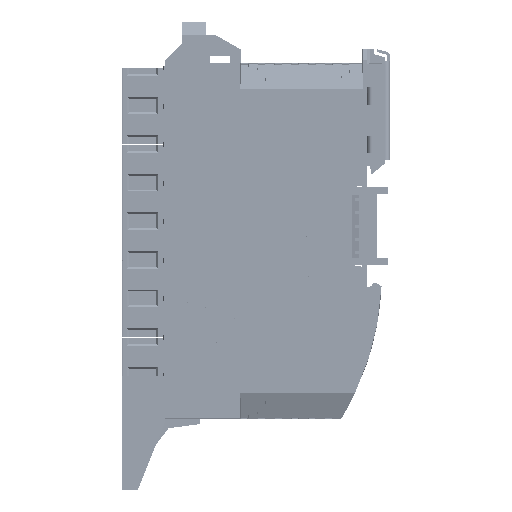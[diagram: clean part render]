
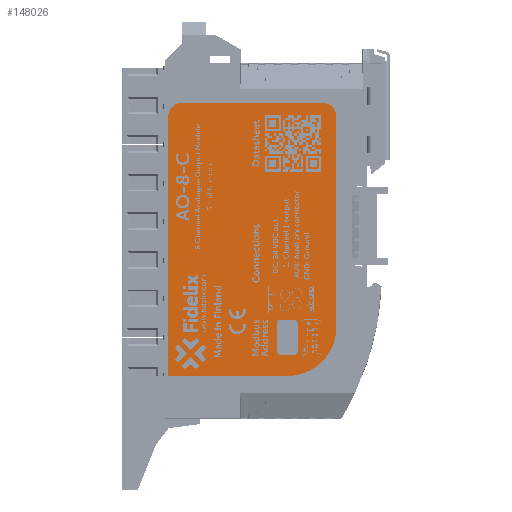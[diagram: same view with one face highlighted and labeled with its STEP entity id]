
A CAD part, left-side view. The second image highlights one B-rep face of the part: STEP entity #148026.
In plain terms, the highlighted planar face has unit normal (-1, 0, 0).
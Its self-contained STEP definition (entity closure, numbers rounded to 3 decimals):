
#865=CIRCLE('',#155704,1.);
#867=CIRCLE('',#155708,1.);
#869=CIRCLE('',#155712,1.);
#871=CIRCLE('',#155716,1.);
#873=CIRCLE('',#155721,4.);
#875=CIRCLE('',#155725,4.);
#877=CIRCLE('',#155729,14.);
#3838=FACE_BOUND('',#21263,.T.);
#6705=PLANE('',#155730);
#13348=FACE_OUTER_BOUND('',#21262,.T.);
#21262=EDGE_LOOP('',(#111419,#111420,#111421,#111422,#111423,#111424,#111425));
#21263=EDGE_LOOP('',(#111426,#111427,#111428,#111429,#111430,#111431,#111432,
#111433));
#32674=LINE('',#266078,#49132);
#32678=LINE('',#266090,#49136);
#32682=LINE('',#266102,#49140);
#32686=LINE('',#266114,#49144);
#32690=LINE('',#266126,#49148);
#32693=LINE('',#266132,#49151);
#32697=LINE('',#266144,#49155);
#32701=LINE('',#266156,#49159);
#49132=VECTOR('',#174347,1000.);
#49136=VECTOR('',#174359,1000.);
#49140=VECTOR('',#174371,1000.);
#49144=VECTOR('',#174383,1000.);
#49148=VECTOR('',#174395,1000.);
#49151=VECTOR('',#174400,1000.);
#49155=VECTOR('',#174412,1000.);
#49159=VECTOR('',#174424,1000.);
#66205=VERTEX_POINT('',#266075);
#66206=VERTEX_POINT('',#266077);
#66208=VERTEX_POINT('',#266083);
#66210=VERTEX_POINT('',#266089);
#66212=VERTEX_POINT('',#266095);
#66214=VERTEX_POINT('',#266101);
#66216=VERTEX_POINT('',#266107);
#66218=VERTEX_POINT('',#266113);
#66221=VERTEX_POINT('',#266123);
#66222=VERTEX_POINT('',#266125);
#66224=VERTEX_POINT('',#266131);
#66226=VERTEX_POINT('',#266137);
#66228=VERTEX_POINT('',#266143);
#66230=VERTEX_POINT('',#266149);
#66232=VERTEX_POINT('',#266155);
#82628=EDGE_CURVE('',#66206,#66205,#32674,.T.);
#82631=EDGE_CURVE('',#66208,#66206,#865,.T.);
#82634=EDGE_CURVE('',#66210,#66208,#32678,.T.);
#82637=EDGE_CURVE('',#66212,#66210,#867,.T.);
#82640=EDGE_CURVE('',#66214,#66212,#32682,.T.);
#82643=EDGE_CURVE('',#66216,#66214,#869,.T.);
#82646=EDGE_CURVE('',#66218,#66216,#32686,.T.);
#82649=EDGE_CURVE('',#66205,#66218,#871,.T.);
#82652=EDGE_CURVE('',#66222,#66221,#32690,.T.);
#82655=EDGE_CURVE('',#66224,#66222,#32693,.T.);
#82658=EDGE_CURVE('',#66226,#66224,#873,.T.);
#82661=EDGE_CURVE('',#66228,#66226,#32697,.T.);
#82664=EDGE_CURVE('',#66230,#66228,#875,.T.);
#82667=EDGE_CURVE('',#66232,#66230,#32701,.T.);
#82670=EDGE_CURVE('',#66221,#66232,#877,.T.);
#111419=ORIENTED_EDGE('',*,*,#82670,.T.);
#111420=ORIENTED_EDGE('',*,*,#82667,.T.);
#111421=ORIENTED_EDGE('',*,*,#82664,.T.);
#111422=ORIENTED_EDGE('',*,*,#82661,.T.);
#111423=ORIENTED_EDGE('',*,*,#82658,.T.);
#111424=ORIENTED_EDGE('',*,*,#82655,.T.);
#111425=ORIENTED_EDGE('',*,*,#82652,.T.);
#111426=ORIENTED_EDGE('',*,*,#82649,.T.);
#111427=ORIENTED_EDGE('',*,*,#82646,.T.);
#111428=ORIENTED_EDGE('',*,*,#82643,.T.);
#111429=ORIENTED_EDGE('',*,*,#82640,.T.);
#111430=ORIENTED_EDGE('',*,*,#82637,.T.);
#111431=ORIENTED_EDGE('',*,*,#82634,.T.);
#111432=ORIENTED_EDGE('',*,*,#82631,.T.);
#111433=ORIENTED_EDGE('',*,*,#82628,.T.);
#148026=ADVANCED_FACE('',(#13348,#3838),#6705,.T.);
#155704=AXIS2_PLACEMENT_3D('',#266084,#174353,#174354);
#155708=AXIS2_PLACEMENT_3D('',#266096,#174365,#174366);
#155712=AXIS2_PLACEMENT_3D('',#266108,#174377,#174378);
#155716=AXIS2_PLACEMENT_3D('',#266118,#174389,#174390);
#155721=AXIS2_PLACEMENT_3D('',#266138,#174406,#174407);
#155725=AXIS2_PLACEMENT_3D('',#266150,#174418,#174419);
#155729=AXIS2_PLACEMENT_3D('',#266160,#174430,#174431);
#155730=AXIS2_PLACEMENT_3D('',#266161,#174432,#174433);
#174347=DIRECTION('',(0.,0.,-1.));
#174353=DIRECTION('center_axis',(1.,0.,0.));
#174354=DIRECTION('ref_axis',(0.,-1.,0.));
#174359=DIRECTION('',(0.,-1.,0.));
#174365=DIRECTION('center_axis',(1.,0.,0.));
#174366=DIRECTION('ref_axis',(0.,0.,
1.));
#174371=DIRECTION('',(0.,0.,1.));
#174377=DIRECTION('center_axis',(1.,0.,0.));
#174378=DIRECTION('ref_axis',(0.,1.,0.));
#174383=DIRECTION('',(0.,1.,0.));
#174389=DIRECTION('center_axis',(1.,0.,0.));
#174390=DIRECTION('ref_axis',(0.,0.,
-1.));
#174395=DIRECTION('',(0.,-1.,0.));
#174400=DIRECTION('',(0.,0.,-1.));
#174406=DIRECTION('center_axis',(-1.,0.,0.));
#174407=DIRECTION('ref_axis',(0.,0.,
1.));
#174412=DIRECTION('',(0.,1.,0.));
#174418=DIRECTION('center_axis',(-1.,0.,0.));
#174419=DIRECTION('ref_axis',(0.,-1.,0.));
#174424=DIRECTION('',(0.,0.,1.));
#174430=DIRECTION('center_axis',(-1.,0.,0.));
#174431=DIRECTION('ref_axis',(0.,0.,
-1.));
#174432=DIRECTION('center_axis',(-1.,0.,0.));
#174433=DIRECTION('ref_axis',(0.,-1.,0.));
#266075=CARTESIAN_POINT('',(-9.55,19.7,-94.02));
#266077=CARTESIAN_POINT('',(-9.55,19.7,-86.02));
#266078=CARTESIAN_POINT('',(-9.55,19.7,-94.02));
#266083=CARTESIAN_POINT('',(-9.55,20.7,-85.02));
#266084=CARTESIAN_POINT('Origin',(-9.55,20.7,-86.02));
#266089=CARTESIAN_POINT('',(-9.55,24.7,-85.02));
#266090=CARTESIAN_POINT('',(-9.55,20.7,-85.02));
#266095=CARTESIAN_POINT('',(-9.55,25.7,-86.02));
#266096=CARTESIAN_POINT('Origin',(-9.55,24.7,-86.02));
#266101=CARTESIAN_POINT('',(-9.55,25.7,-94.02));
#266102=CARTESIAN_POINT('',(-9.55,25.7,-86.02));
#266107=CARTESIAN_POINT('',(-9.55,24.7,-95.02));
#266108=CARTESIAN_POINT('Origin',(-9.55,24.7,-94.02));
#266113=CARTESIAN_POINT('',(-9.55,20.7,-95.02));
#266114=CARTESIAN_POINT('',(-9.55,24.7,-95.02));
#266118=CARTESIAN_POINT('Origin',(-9.55,20.7,-94.02));
#266123=CARTESIAN_POINT('',(-9.55,22.7,-101.02));
#266125=CARTESIAN_POINT('',(-9.55,56.7,-101.02));
#266126=CARTESIAN_POINT('',(-9.55,56.7,-101.02));
#266131=CARTESIAN_POINT('',(-9.55,56.7,-27.02));
#266132=CARTESIAN_POINT('',(-9.55,56.7,-27.02));
#266137=CARTESIAN_POINT('',(-9.55,52.7,-23.02));
#266138=CARTESIAN_POINT('Origin',(-9.55,52.7,-27.02));
#266143=CARTESIAN_POINT('',(-9.55,12.7,-23.02));
#266144=CARTESIAN_POINT('',(-9.55,12.7,-23.02));
#266149=CARTESIAN_POINT('',(-9.55,8.7,-27.02));
#266150=CARTESIAN_POINT('Origin',(-9.55,12.7,-27.02));
#266155=CARTESIAN_POINT('',(-9.55,8.7,-87.02));
#266156=CARTESIAN_POINT('',(-9.55,8.7,-87.02));
#266160=CARTESIAN_POINT('Origin',(-9.55,22.7,-87.02));
#266161=CARTESIAN_POINT('Origin',(-9.55,32.7,-62.02));
